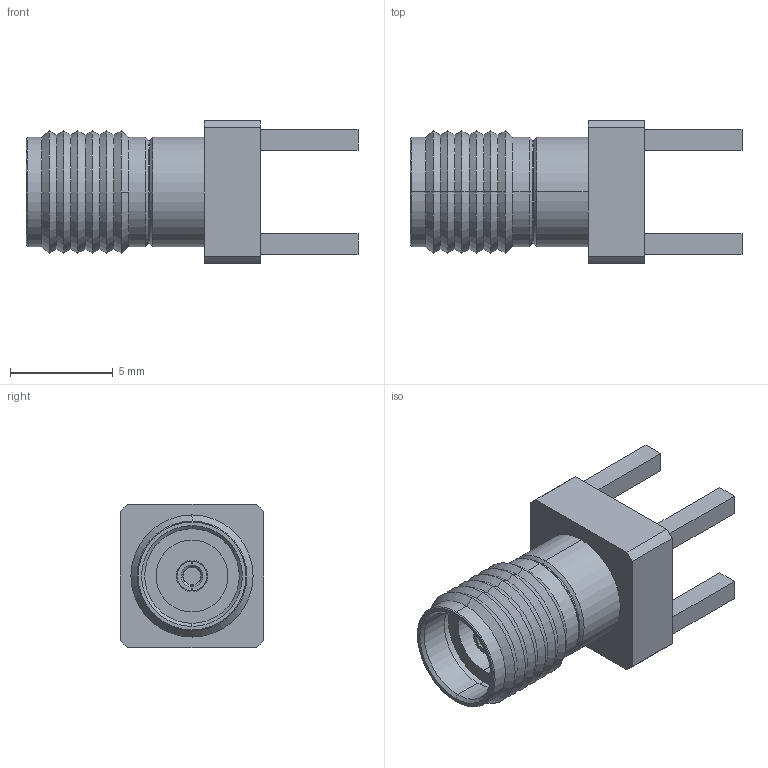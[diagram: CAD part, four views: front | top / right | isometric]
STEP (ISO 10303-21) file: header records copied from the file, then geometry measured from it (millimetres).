
FILE_DESCRIPTION (( 'STEP AP203' ), '1' );
FILE_NAME ('TMB-V5FS-2SM-01.STEP', '2019-12-05T16:26:07', ( '' ), ( '' ), 'SwSTEP 2.0', 'SolidWorks 2017', '' );
FILE_SCHEMA (( 'CONFIG_CONTROL_DESIGN' ));
Length unit declared in the file: inch
Products named in the file (1): TMB-V5FS-2SM-01
Bounding box: 16.17 x 7 x 7 mm (x, y, z)
Volume: 306.2 mm3; surface area: 499.2 mm2
Topology: 1 solids, 1 shells, 109 faces, 242 edges, 148 vertices
Faces by surface type: cone 46, plane 37, cylinder 22, bspline 4
Entity records: 3181 total; most frequent: CARTESIAN_POINT 662, DIRECTION 536, ORIENTED_EDGE 484, EDGE_CURVE 242, AXIS2_PLACEMENT_3D 204, VERTEX_POINT 148, VECTOR 128, LINE 128
